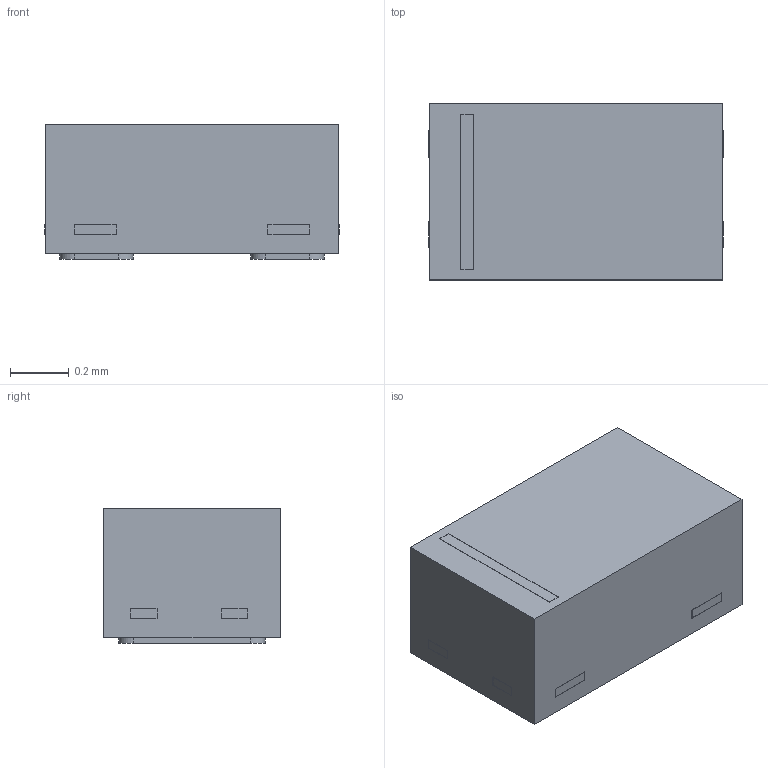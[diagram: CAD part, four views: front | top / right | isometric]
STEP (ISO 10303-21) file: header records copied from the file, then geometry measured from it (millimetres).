
FILE_DESCRIPTION(('Designed by EasyEDA Pro'),'2;1');
FILE_NAME('Open CASCADE Shape Model','2025-07-23T16:04:26',('Author'),( 'Open CASCADE'),'Open CASCADE STEP processor 7.6','Open CASCADE 7.8' ,'Unknown');
FILE_SCHEMA(('AUTOMOTIVE_DESIGN_CC2 { 1 2 10303 214 -1 1 5 4 }'));
Length unit declared in the file: millimetre
Products named in the file (4): PCBModel; y0fA-D1; D0402; SOLID
Assembly tree (3 placements, depth 4):
  PCBModel
    y0fA-D1
      D0402
        SOLID
Bounding box: 1 x 0.6 x 0.46 mm (x, y, z)
Volume: 0.3 mm3; surface area: 2.7 mm2
Topology: 1 solids, 1 shells, 293 faces, 783 edges, 522 vertices
Faces by surface type: plane 187, bspline 98, cylinder 8
Entity records: 12292 total; most frequent: CARTESIAN_POINT 2908, ORIENTED_EDGE 1566, DIRECTION 997, EDGE_CURVE 783, LINE 567, VECTOR 567, VERTEX_POINT 522, FACE_BOUND 323
